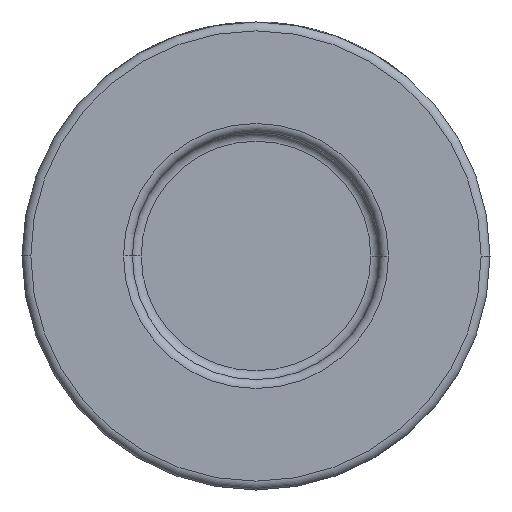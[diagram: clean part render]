
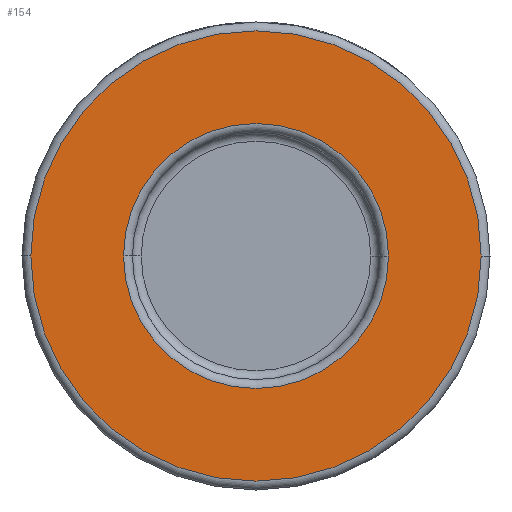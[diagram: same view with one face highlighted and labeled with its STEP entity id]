
A CAD part, front view. The second image highlights one B-rep face of the part: STEP entity #154.
In plain terms, the highlighted planar face has unit normal (0, -1, 0).
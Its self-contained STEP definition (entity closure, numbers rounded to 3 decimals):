
#9 = VERTEX_POINT ( 'NONE', #3433 ) ;
#154 = ADVANCED_FACE ( 'NONE', ( #194, #3713 ), #2631, .T. ) ;
#186 = CIRCLE ( 'NONE', #988, 15. ) ;
#187 = DIRECTION ( 'NONE',  ( 1., 0., 0. ) ) ;
#194 = FACE_BOUND ( 'NONE', #1578, .T. ) ;
#435 = EDGE_CURVE ( 'NONE', #549, #1841, #186, .T. ) ;
#451 = CARTESIAN_POINT ( 'NONE',  ( 0., -20., 0. ) ) ;
#478 = ORIENTED_EDGE ( 'NONE', *, *, #4251, .T. ) ;
#492 = EDGE_CURVE ( 'NONE', #2922, #9, #1057, .T. ) ;
#547 = EDGE_CURVE ( 'NONE', #1841, #549, #1582, .T. ) ;
#549 = VERTEX_POINT ( 'NONE', #2375 ) ;
#759 = AXIS2_PLACEMENT_3D ( 'NONE', #451, #1097, #3544 ) ;
#902 = CARTESIAN_POINT ( 'NONE',  ( 26.5, -20., 0. ) ) ;
#927 = DIRECTION ( 'NONE',  ( 1., 0., 0. ) ) ;
#988 = AXIS2_PLACEMENT_3D ( 'NONE', #2167, #1853, #187 ) ;
#1057 = CIRCLE ( 'NONE', #3158, 25.5 ) ;
#1097 = DIRECTION ( 'NONE',  ( 0., -1., 0. ) ) ;
#1535 = CARTESIAN_POINT ( 'NONE',  ( 0., -20., 0. ) ) ;
#1578 = EDGE_LOOP ( 'NONE', ( #2469, #1686 ) ) ;
#1582 = CIRCLE ( 'NONE', #3323, 15. ) ;
#1587 = CARTESIAN_POINT ( 'NONE',  ( 0., -20., 0. ) ) ;
#1673 = DIRECTION ( 'NONE',  ( 1., 0., 0. ) ) ;
#1686 = ORIENTED_EDGE ( 'NONE', *, *, #435, .T. ) ;
#1841 = VERTEX_POINT ( 'NONE', #3636 ) ;
#1853 = DIRECTION ( 'NONE',  ( 0., 1., 0. ) ) ;
#1876 = DIRECTION ( 'NONE',  ( 1., 0., 0. ) ) ;
#1988 = DIRECTION ( 'NONE',  ( 0., 1., 0. ) ) ;
#2167 = CARTESIAN_POINT ( 'NONE',  ( 0., -20., 0. ) ) ;
#2375 = CARTESIAN_POINT ( 'NONE',  ( -15., -20., 0. ) ) ;
#2469 = ORIENTED_EDGE ( 'NONE', *, *, #547, .T. ) ;
#2544 = ORIENTED_EDGE ( 'NONE', *, *, #492, .T. ) ;
#2631 = PLANE ( 'NONE',  #4064 ) ;
#2856 = EDGE_LOOP ( 'NONE', ( #478, #2544 ) ) ;
#2922 = VERTEX_POINT ( 'NONE', #3476 ) ;
#2990 = DIRECTION ( 'NONE',  ( 0., -1., 0. ) ) ;
#3158 = AXIS2_PLACEMENT_3D ( 'NONE', #1535, #3255, #1876 ) ;
#3255 = DIRECTION ( 'NONE',  ( 0., -1., 0. ) ) ;
#3323 = AXIS2_PLACEMENT_3D ( 'NONE', #1587, #1988, #1673 ) ;
#3433 = CARTESIAN_POINT ( 'NONE',  ( 25.5, -20., 0. ) ) ;
#3476 = CARTESIAN_POINT ( 'NONE',  ( -25.5, -20., 0. ) ) ;
#3544 = DIRECTION ( 'NONE',  ( 1., 0., 0. ) ) ;
#3636 = CARTESIAN_POINT ( 'NONE',  ( 15., -20., 0. ) ) ;
#3682 = CIRCLE ( 'NONE', #759, 25.5 ) ;
#3713 = FACE_OUTER_BOUND ( 'NONE', #2856, .T. ) ;
#4064 = AXIS2_PLACEMENT_3D ( 'NONE', #902, #2990, #927 ) ;
#4251 = EDGE_CURVE ( 'NONE', #9, #2922, #3682, .T. ) ;
